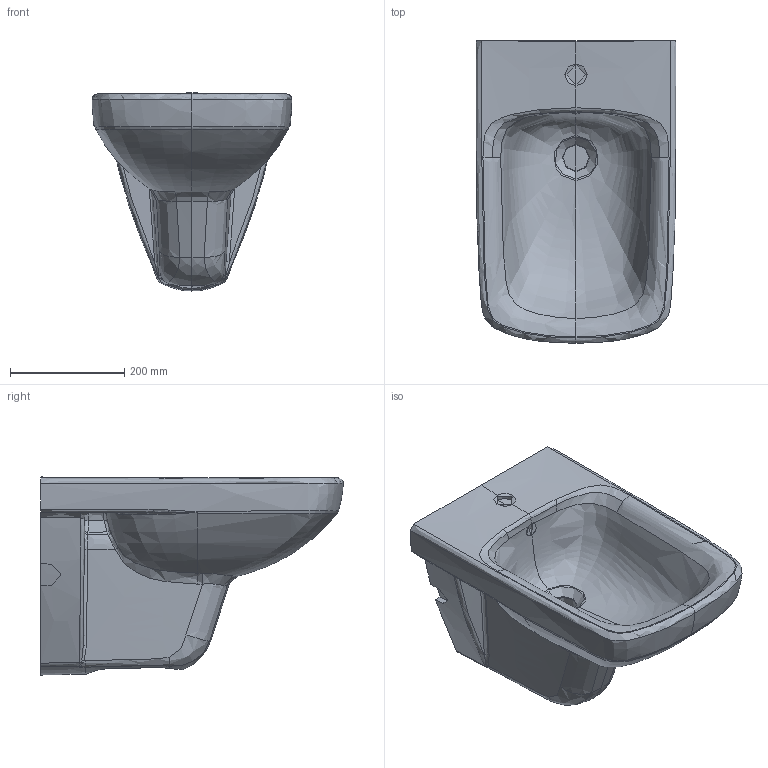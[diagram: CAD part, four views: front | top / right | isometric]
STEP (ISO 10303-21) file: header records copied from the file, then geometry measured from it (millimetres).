
FILE_DESCRIPTION(/* description */ (''),/* implementation_level */ '2;1');
FILE_NAME(/* name */ 'C:\Planerdaten\Export PLA\500.271.01.1\stp\500271.stp',/* time_stamp */ '2020-05-01T05:21:38-07:00',/* author */ ('JANAN'),/* organization */ (''),/* preprocessor_version */ 'ST-DEVELOPER v16.13',/* originating_system */ 'Autodesk Inventor 2018',/* authorisation */ '');
FILE_SCHEMA (('AUTOMOTIVE_DESIGN { 1 0 10303 214 3 1 1 }'));
Products named in the file (1): WBI Ge+SnvS T53 m/ÜLF
Bounding box: 350.01 x 530.02 x 346.82 mm (x, y, z)
Volume: 19757029.5 mm3; surface area: 772684 mm2
Topology: 1 solids, 1 shells, 233 faces, 558 edges, 331 vertices
Faces by surface type: bspline 180, plane 31, cylinder 14, sphere 4, cone 4
Full cylindrical faces by diameter (mm): 20 x4, 22 x1, 35 x1, 46 x1, 50 x1
Entity records: 46392 total; most frequent: CARTESIAN_POINT 42098, ORIENTED_EDGE 1090, EDGE_CURVE 545, DIRECTION 456, VERTEX_POINT 326, B_SPLINE_CURVE_WITH_KNOTS 313, EDGE_LOOP 245, STYLED_ITEM 234
